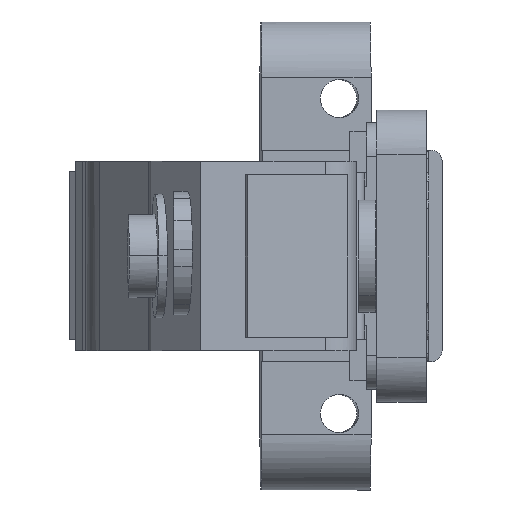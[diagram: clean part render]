
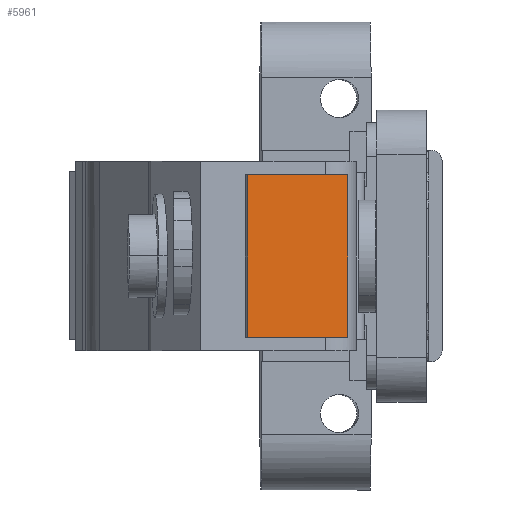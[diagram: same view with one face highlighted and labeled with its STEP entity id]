
A CAD part, left-side view. The second image highlights one B-rep face of the part: STEP entity #5961.
In plain terms, the highlighted planar face has unit normal (-0.991, -0.131, 0).
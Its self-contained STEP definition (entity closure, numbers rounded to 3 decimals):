
#513 = CARTESIAN_POINT ( 'NONE',  ( -15.401, 5.171, -7.2 ) ) ;
#581 = EDGE_CURVE ( 'NONE', #940, #6099, #6538, .T. ) ;
#591 = EDGE_CURVE ( 'NONE', #940, #7492, #1012, .T. ) ;
#603 = EDGE_CURVE ( 'NONE', #6099, #6534, #1982, .T. ) ;
#812 = EDGE_CURVE ( 'NONE', #7492, #6534, #7221, .T. ) ;
#907 = CARTESIAN_POINT ( 'NONE',  ( -15.401, 5.171, 2.4 ) ) ;
#940 = VERTEX_POINT ( 'NONE', #5769 ) ;
#1012 = B_SPLINE_CURVE_WITH_KNOTS ( 'NONE', 3,
 ( #5611, #5555, #5316, #5486 ),
 .UNSPECIFIED., .F., .F.,
 ( 4, 4 ),
 ( 0., 1. ),
 .UNSPECIFIED. ) ;
#1397 = CARTESIAN_POINT ( 'NONE',  ( -15.401, 5.171, 7.2 ) ) ;
#1520 = CARTESIAN_POINT ( 'NONE',  ( -15.401, 5.171, -2.4 ) ) ;
#1543 = CARTESIAN_POINT ( 'NONE',  ( -15.401, 5.171, -7.2 ) ) ;
#1982 = B_SPLINE_CURVE_WITH_KNOTS ( 'NONE', 3,
 ( #5525, #5460, #5371, #5437 ),
 .UNSPECIFIED., .F., .F.,
 ( 4, 4 ),
 ( 0., 1. ),
 .UNSPECIFIED. ) ;
#2678 = ORIENTED_EDGE ( 'NONE', *, *, #812, .F. ) ;
#2993 = CARTESIAN_POINT ( 'NONE',  ( -15.401, 5.171, 7.2 ) ) ;
#3399 = EDGE_LOOP ( 'NONE', ( #4808, #2678, #7813, #7603 ) ) ;
#3967 = CARTESIAN_POINT ( 'NONE',  ( -16.572, 14.054, -7.2 ) ) ;
#4030 = AXIS2_PLACEMENT_3D ( 'NONE', #4819, #4781, #4770 ) ;
#4196 = FACE_OUTER_BOUND ( 'NONE', #3399, .T. ) ;
#4770 = DIRECTION ( 'NONE',  ( 0., 0., -1. ) ) ;
#4781 = DIRECTION ( 'NONE',  ( 0.991, 0.131, 0. ) ) ;
#4808 = ORIENTED_EDGE ( 'NONE', *, *, #603, .T. ) ;
#4819 = CARTESIAN_POINT ( 'NONE',  ( -16.572, 14.054, 7.2 ) ) ;
#4898 = PLANE ( 'NONE',  #4030 ) ;
#5316 = CARTESIAN_POINT ( 'NONE',  ( -15.791, 8.132, 7.2 ) ) ;
#5371 = CARTESIAN_POINT ( 'NONE',  ( -15.791, 8.132, -7.2 ) ) ;
#5437 = CARTESIAN_POINT ( 'NONE',  ( -15.401, 5.171, -7.2 ) ) ;
#5460 = CARTESIAN_POINT ( 'NONE',  ( -16.182, 11.093, -7.2 ) ) ;
#5486 = CARTESIAN_POINT ( 'NONE',  ( -15.401, 5.171, 7.2 ) ) ;
#5525 = CARTESIAN_POINT ( 'NONE',  ( -16.572, 14.054, -7.2 ) ) ;
#5555 = CARTESIAN_POINT ( 'NONE',  ( -16.182, 11.093, 7.2 ) ) ;
#5611 = CARTESIAN_POINT ( 'NONE',  ( -16.572, 14.054, 7.2 ) ) ;
#5678 = CARTESIAN_POINT ( 'NONE',  ( -16.572, 14.054, -7.2 ) ) ;
#5686 = CARTESIAN_POINT ( 'NONE',  ( -16.572, 14.054, 7.2 ) ) ;
#5695 = CARTESIAN_POINT ( 'NONE',  ( -16.572, 14.054, -2.4 ) ) ;
#5704 = CARTESIAN_POINT ( 'NONE',  ( -16.572, 14.054, 2.4 ) ) ;
#5769 = CARTESIAN_POINT ( 'NONE',  ( -16.572, 14.054, 7.2 ) ) ;
#5961 = ADVANCED_FACE ( 'NONE', ( #4196 ), #4898, .F. ) ;
#6099 = VERTEX_POINT ( 'NONE', #3967 ) ;
#6534 = VERTEX_POINT ( 'NONE', #513 ) ;
#6538 = B_SPLINE_CURVE_WITH_KNOTS ( 'NONE', 3,
 ( #5686, #5704, #5695, #5678 ),
 .UNSPECIFIED., .F., .F.,
 ( 4, 4 ),
 ( 0., 1. ),
 .UNSPECIFIED. ) ;
#7221 = B_SPLINE_CURVE_WITH_KNOTS ( 'NONE', 3,
 ( #1397, #907, #1520, #1543 ),
 .UNSPECIFIED., .F., .F.,
 ( 4, 4 ),
 ( 0., 1. ),
 .UNSPECIFIED. ) ;
#7492 = VERTEX_POINT ( 'NONE', #2993 ) ;
#7603 = ORIENTED_EDGE ( 'NONE', *, *, #581, .T. ) ;
#7813 = ORIENTED_EDGE ( 'NONE', *, *, #591, .F. ) ;
